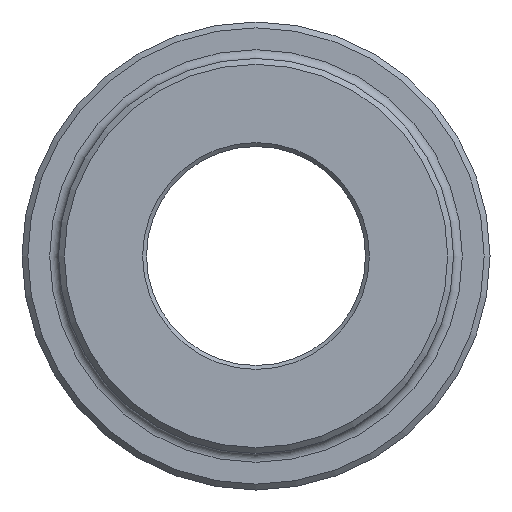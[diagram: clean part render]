
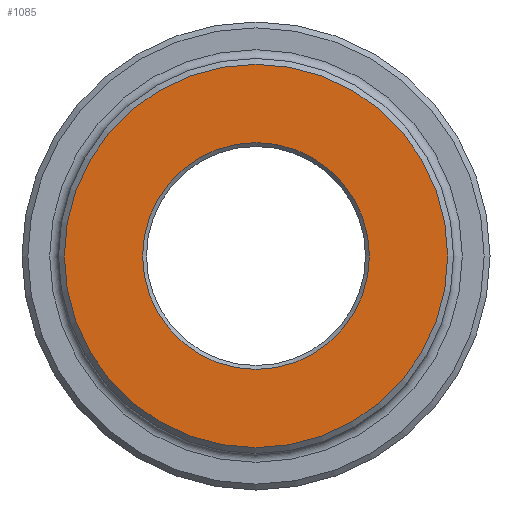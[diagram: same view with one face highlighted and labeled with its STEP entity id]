
A CAD part, left-side view. The second image highlights one B-rep face of the part: STEP entity #1085.
In plain terms, the highlighted planar face has unit normal (-1, 0, 0).
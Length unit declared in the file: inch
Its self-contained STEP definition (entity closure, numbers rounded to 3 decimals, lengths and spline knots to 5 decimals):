
#136 = DIRECTION ( 'NONE',  ( 0., 0., -1. ) ) ;
#263 = CARTESIAN_POINT ( 'NONE',  ( 0., 0., 0. ) ) ;
#434 = AXIS2_PLACEMENT_3D ( 'NONE', #1558, #1861, #1439 ) ;
#629 = AXIS2_PLACEMENT_3D ( 'NONE', #263, #2184, #136 ) ;
#942 = VERTEX_POINT ( 'NONE', #1250 ) ;
#1032 = FACE_OUTER_BOUND ( 'NONE', #1834, .T. ) ;
#1085 = ADVANCED_FACE ( 'NONE', ( #1548, #1032 ), #1734, .F. ) ;
#1095 = VERTEX_POINT ( 'NONE', #1724 ) ;
#1242 = AXIS2_PLACEMENT_3D ( 'NONE', #1252, #1576, #1536 ) ;
#1250 = CARTESIAN_POINT ( 'NONE',  ( 0., 0., -1.97 ) ) ;
#1252 = CARTESIAN_POINT ( 'NONE',  ( 0., 0., 0. ) ) ;
#1403 = CIRCLE ( 'NONE', #1242, 1.97 ) ;
#1429 = EDGE_CURVE ( 'NONE', #1095, #1095, #1523, .T. ) ;
#1440 = ORIENTED_EDGE ( 'NONE', *, *, #1667, .T. ) ;
#1439 = DIRECTION ( 'NONE',  ( 0., 0., -1. ) ) ;
#1462 = EDGE_LOOP ( 'NONE', ( #1923 ) ) ;
#1523 = CIRCLE ( 'NONE', #434, 1.1654 ) ;
#1536 = DIRECTION ( 'NONE',  ( 0., 0., -1. ) ) ;
#1548 = FACE_BOUND ( 'NONE', #1462, .T. ) ;
#1558 = CARTESIAN_POINT ( 'NONE',  ( 0., 0., 0. ) ) ;
#1576 = DIRECTION ( 'NONE',  ( -1., 0., 0. ) ) ;
#1667 = EDGE_CURVE ( 'NONE', #942, #942, #1403, .T. ) ;
#1724 = CARTESIAN_POINT ( 'NONE',  ( 0., 0., -1.1654 ) ) ;
#1734 = PLANE ( 'NONE',  #629 ) ;
#1834 = EDGE_LOOP ( 'NONE', ( #1440 ) ) ;
#1861 = DIRECTION ( 'NONE',  ( 1., 0., 0. ) ) ;
#1923 = ORIENTED_EDGE ( 'NONE', *, *, #1429, .T. ) ;
#2184 = DIRECTION ( 'NONE',  ( 1., 0., 0. ) ) ;
